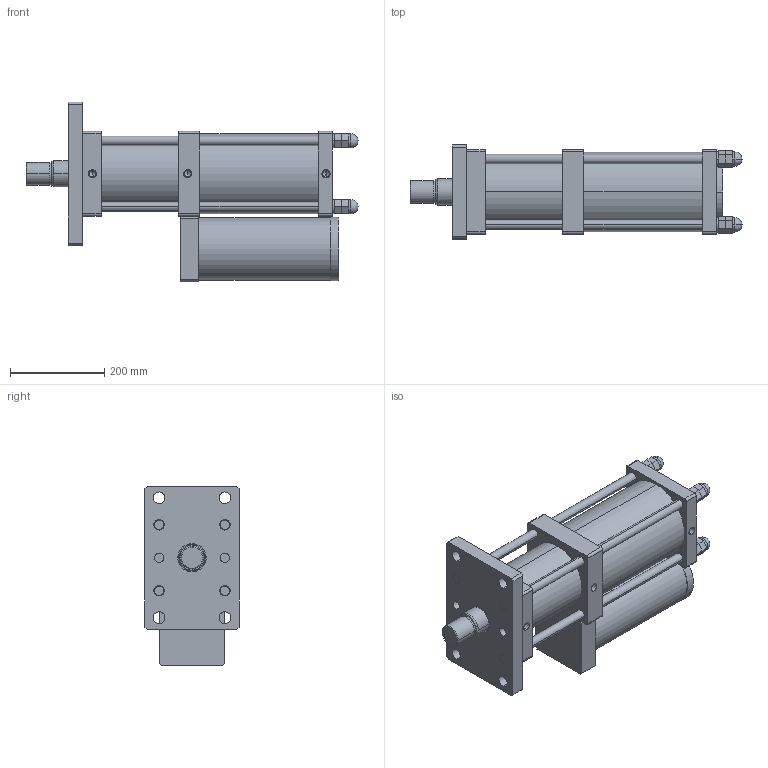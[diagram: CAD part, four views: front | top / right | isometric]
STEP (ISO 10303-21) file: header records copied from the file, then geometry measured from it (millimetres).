
FILE_DESCRIPTION (( 'STEP AP203' ), '1' );
FILE_NAME ('MPT-125-100-15-15T.STEP', '2016-03-12T00:59:12', ( 'WIN' ), ( '' ), 'SwSTEP 2.0', 'SolidWorks 2014', '' );
FILE_SCHEMA (( 'CONFIG_CONTROL_DESIGN' ));
Length unit declared in the file: millimetre
Products named in the file (1): MPT-125-100-15-15T
Bounding box: 706 x 200 x 382.5 mm (x, y, z)
Volume: 16122164 mm3; surface area: 1194364 mm2
Topology: 17 solids, 17 shells, 321 faces, 732 edges, 458 vertices
Faces by surface type: plane 155, cylinder 124, cone 30, sphere 8, torus 4
Entity records: 8969 total; most frequent: DIRECTION 1654, CARTESIAN_POINT 1480, ORIENTED_EDGE 1416, EDGE_CURVE 708, AXIS2_PLACEMENT_3D 624, VERTEX_POINT 450, VECTOR 406, LINE 406
